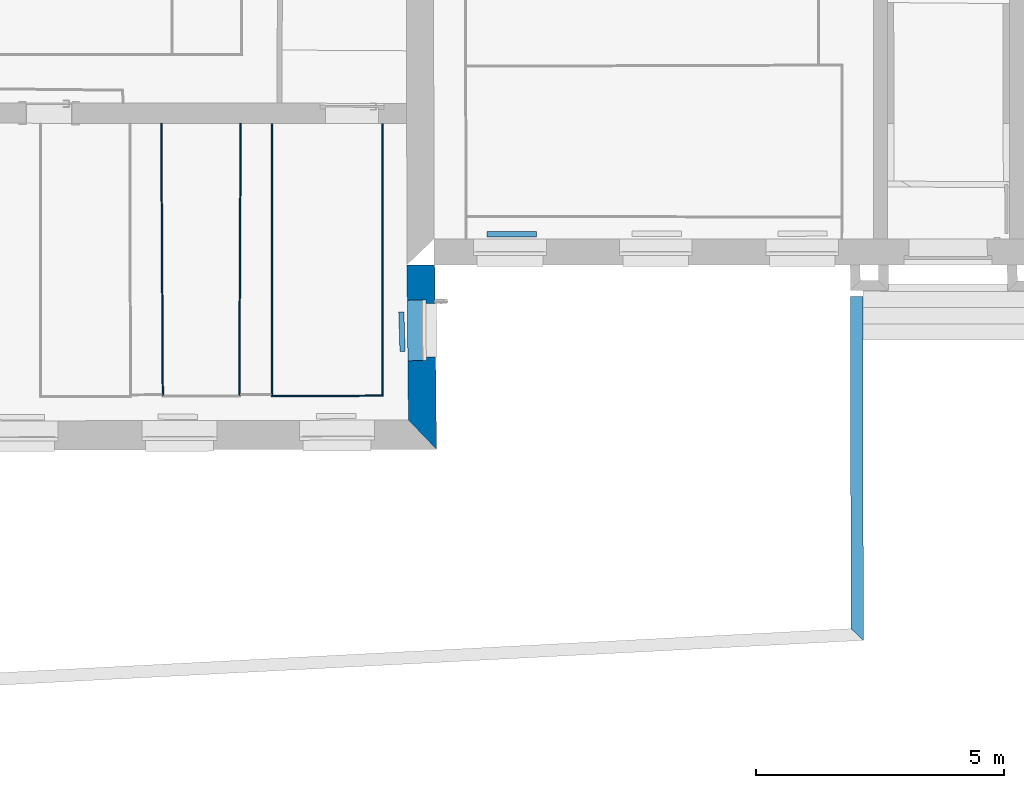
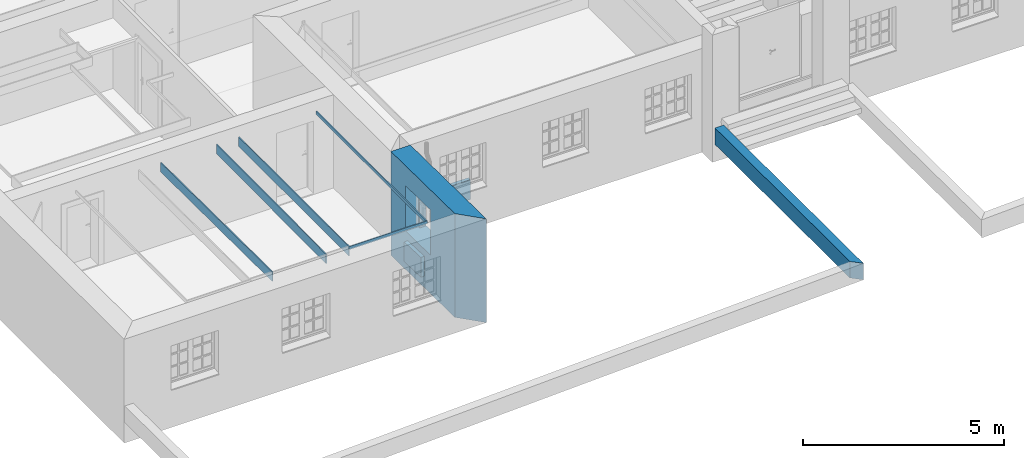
# One storey, part 19 of 196: 9 walls, 1 opening.
"""IFC2X3 building model written with IfcOpenShell, lengths in metres."""

from ifc_helpers import new_model, entity, si_unit, converted_unit, derived_unit, money_unit, direction, frame, origin_with_axes, origin_2d_with_axis, place, context, subcontext, project, spatial, polyline, rectangle, outline, extrude, material, layer, layer_set, layer_usage, type_object, element, save


model = new_model("IFC2X3")

# Units and contexts
model_context = context("Model", 3, precision=1e-05, world=origin_with_axes(), true_north=direction((0.0, 1.0)))
body_context = subcontext(model_context, "Body", "Model", "MODEL_VIEW")
ifc_project = project(units=[si_unit("LENGTHUNIT", "METRE"), si_unit("AREAUNIT", "SQUARE_METRE"), si_unit("VOLUMEUNIT", "CUBIC_METRE"), converted_unit("PLANEANGLEUNIT", "DEGREE", entity("IfcPlaneAngleMeasure", 0.0174532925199), si_unit("PLANEANGLEUNIT", "RADIAN"), dimensions=[0, 0, 0, 0, 0, 0, 0]), money_unit("EUR"), converted_unit("TIMEUNIT", "Year", entity("IfcTimeMeasure", 31556926.0), si_unit("TIMEUNIT", "SECOND"), dimensions=[0, 0, 1, 0, 0, 0, 0]), si_unit("MASSUNIT", "GRAM", prefix="KILO"), si_unit("THERMODYNAMICTEMPERATUREUNIT", "DEGREE_CELSIUS"), si_unit("LUMINOUSINTENSITYUNIT", "LUMEN"), si_unit("ENERGYUNIT", "JOULE", prefix="MEGA"), derived_unit("THERMALCONDUCTANCEUNIT", [(si_unit("POWERUNIT", "WATT"), 1), (si_unit("LENGTHUNIT", "METRE"), -1), (si_unit("THERMODYNAMICTEMPERATUREUNIT", "KELVIN"), -1)]), derived_unit("SPECIFICHEATCAPACITYUNIT", [(si_unit("ENERGYUNIT", "JOULE"), 1), (si_unit("MASSUNIT", "GRAM", prefix="KILO"), -1), (si_unit("THERMODYNAMICTEMPERATUREUNIT", "KELVIN"), -1)]), derived_unit("MASSDENSITYUNIT", [(si_unit("MASSUNIT", "GRAM", prefix="KILO"), 1), (si_unit("VOLUMEUNIT", "CUBIC_METRE"), -1)])], contexts=[model_context])

# Site, building, storey
site_placement = place(None, origin_with_axes())
site = spatial("IfcSite", under=ifc_project, at=site_placement, Name="Gelände", CompositionType="ELEMENT")
building_placement = place(site_placement, origin_with_axes())
building = spatial("IfcBuilding", under=site, at=building_placement, Name="Gebäude", CompositionType="ELEMENT")
storey_placement = place(building_placement, frame((0.0, 0.0, -3.0), z_axis=(0.0, 0.0, 1.0), x_axis=(1.0, 0.0, 0.0)))
storey = spatial("IfcBuildingStorey", under=building, at=storey_placement, Name="KELLERGESCHOSS", CompositionType="ELEMENT", Elevation=-3.0)

# Walls
ifc_material_1 = material(Name="05_ALLGEMEIN - TRAGENDE BAUTEILE")
ifc_layer_1 = layer(ifc_material_1, 0.250000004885, ventilated="UNKNOWN")
ifc_layer_set_1 = layer_set([ifc_layer_1], Name="05_ALLGEMEIN - TRAGENDE BAUTEILE 0.25")
ifc_layer_usage_1 = layer_usage(ifc_layer_set_1, "AXIS2", "NEGATIVE", 0.0)
wall_type_1 = type_object("IfcWallType", Name="05_ALLGEMEIN - TRAGENDE BAUTEILE 250", PredefinedType="ELEMENTEDWALL")
wall_1_placement = place(storey_placement, frame((-9.10849058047, 9.30214701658, 0.262), z_axis=(0.0, 0.0, 1.0), x_axis=(0.00189349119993, -0.999998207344, 0.0)))
element("IfcWallStandardCase", 1, at=wall_1_placement, inside=storey, type_object=wall_type_1, material=ifc_layer_usage_1, Name="Wand-041", ObjectType="ELEMENTEDWALL", context=body_context, shape_type="SweptSolid", body=[
    extrude(outline(polyline([(0.0, -0.25), (6.69434881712, -0.25), (6.9322007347, 0.0), (0.0, 0.0), (0.0, -0.25)])), origin_with_axes(), (0.0, 0.0, 1.0), 0.5),
])
ifc_material_2 = material(Name="43_Gipskarton")
ifc_layer_2 = layer(ifc_material_2, 0.03, ventilated="UNKNOWN")
ifc_layer_set_2 = layer_set([ifc_layer_2], Name="43_Gipskarton 0.03")
ifc_layer_usage_2 = layer_usage(ifc_layer_set_2, "AXIS2", "NEGATIVE", 0.0)
wall_type_2 = type_object("IfcWallType", Name="43_Gipskarton 30", PredefinedType="ELEMENTEDWALL")
wall_2_placement = place(storey_placement, frame((-20.9988620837, 7.31204342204, 2.37), z_axis=(0.0, 0.0, 1.0), x_axis=(0.99999756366, 0.00220741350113, 0.0)))
element("IfcWallStandardCase", 2, at=wall_2_placement, inside=storey, type_object=wall_type_2, material=ifc_layer_usage_2, Name="Wand-050", ObjectType="ELEMENTEDWALL", context=body_context, shape_type="SweptSolid", body=[
    extrude(outline(polyline([(-0.0300733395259, -0.03), (2.22702337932, -0.03), (2.19709066, 0.0), (0.0, 0.0), (-0.0300733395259, -0.03)])), origin_with_axes(), (0.0, 0.0, 1.0), 0.09),
])
ifc_layer_usage_3 = layer_usage(ifc_layer_set_2, "AXIS2", "NEGATIVE", 0.0)
wall_3_placement = place(storey_placement, frame((-18.8017767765, 7.31689330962, 2.37), z_axis=(0.0, 0.0, 1.0), x_axis=(3.77906442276e-05, 0.999999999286, 0.0)))
element("IfcWallStandardCase", 3, at=wall_3_placement, inside=storey, type_object=wall_type_2, material=ifc_layer_usage_3, Name="Wand-051", ObjectType="ELEMENTEDWALL", context=body_context, shape_type="SweptSolid", body=[
    extrude(outline(polyline([(-0.0299327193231, -0.03), (5.46817233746, -0.03), (5.46817233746, 0.0), (0.0, 0.0), (-0.0299327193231, -0.03)])), origin_with_axes(), (0.0, 0.0, 1.0), 0.09),
])
ifc_layer_usage_4 = layer_usage(ifc_layer_set_2, "AXIS2", "NEGATIVE", 0.0)
wall_4_placement = place(storey_placement, frame((-23.2313996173, 12.7901968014, 2.18), z_axis=(0.0, 0.0, 1.0), x_axis=(0.0054770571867, -0.99998500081, 0.0)))
element("IfcWallStandardCase", 4, at=wall_4_placement, inside=storey, type_object=wall_type_2, material=ifc_layer_usage_4, Name="Wand-053", ObjectType="ELEMENTEDWALL", context=body_context, shape_type="SweptSolid", body=[
    extrude(outline(polyline([(0.0, -0.03), (5.51299954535, -0.03), (5.48309747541, 0.0), (0.0, 0.0), (0.0, -0.03)])), origin_with_axes(), (0.0, 0.0, 1.0), 0.28),
])
ifc_layer_usage_5 = layer_usage(ifc_layer_set_2, "AXIS2", "NEGATIVE", 0.03)
wall_5_placement = place(storey_placement, frame((-21.6632398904, 12.7883803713, 2.18), z_axis=(0.0, 0.0, 1.0), x_axis=(-0.00488529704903, -0.999988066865, 0.0)))
element("IfcWallStandardCase", 5, at=wall_5_placement, inside=storey, type_object=wall_type_2, material=ifc_layer_usage_5, Name="Wand-054", ObjectType="ELEMENTEDWALL", context=body_context, shape_type="SweptSolid", body=[
    extrude(outline(polyline([(0.0, 0.0), (5.47792795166, 0.0), (5.50771592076, 0.03), (0.0, 0.03), (0.0, 0.0)])), origin_with_axes(), (0.0, 0.0, 1.0), 0.28),
])
ifc_layer_usage_6 = layer_usage(ifc_layer_set_2, "AXIS2", "NEGATIVE", 0.03)
wall_6_placement = place(storey_placement, frame((-20.9988620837, 7.31204342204, 2.18), z_axis=(0.0, 0.0, 1.0), x_axis=(0.000234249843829, 0.999999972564, 0.0)))
element("IfcWallStandardCase", 6, at=wall_6_placement, inside=storey, type_object=wall_type_2, material=ifc_layer_usage_6, Name="Wand-055", ObjectType="ELEMENTEDWALL", context=body_context, shape_type="SweptSolid", body=[
    extrude(outline(polyline([(0.0, 0.0), (5.47556605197, 0.0), (5.47556605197, 0.03), (-0.0300733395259, 0.03), (0.0, 0.0)])), origin_with_axes(), (0.0, 0.0, 1.0), 0.28),
])
ifc_material_3 = material(Name="01_ALLGEMEIN - BAUTEIL")
ifc_layer_3 = layer(ifc_material_3, 0.105, ventilated="UNKNOWN")
ifc_layer_set_3 = layer_set([ifc_layer_3], Name="01_ALLGEMEIN - BAUTEIL 0.105")
ifc_layer_usage_7 = layer_usage(ifc_layer_set_3, "AXIS2", "NEGATIVE", 0.105)
wall_type_3 = type_object("IfcWallType", Name="01_ALLGEMEIN - BAUTEIL 105", PredefinedType="ELEMENTEDWALL")
wall_7_placement = place(storey_placement, frame((-15.6821866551, 10.6066354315, 0.0805299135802), z_axis=(0.0, 0.0, 1.0), x_axis=(-0.999996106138, 0.00279064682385, 0.0)))
element("IfcWallStandardCase", 7, at=wall_7_placement, inside=storey, type_object=wall_type_3, material=ifc_layer_usage_7, Name="Wand-038", ObjectType="ELEMENTEDWALL", context=body_context, shape_type="SweptSolid", body=[
    extrude(outline(polyline([(0.0, 0.0), (0.997988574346, 0.0), (0.997988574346, 0.105), (0.0, 0.105), (0.0, 0.0)])), origin_with_axes(), (0.0, 0.0, 1.0), 0.597873),
])
ifc_layer_usage_8 = layer_usage(ifc_layer_set_3, "AXIS2", "NEGATIVE", 0.0)
wall_8_placement = place(storey_placement, frame((-18.4372232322, 8.19434926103, 0.0805299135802), z_axis=(0.0, 0.0, 1.0), x_axis=(-0.0303967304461, 0.999537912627, 0.0)))
element("IfcWallStandardCase", 8, at=wall_8_placement, inside=storey, type_object=wall_type_3, material=ifc_layer_usage_8, Name="Wand-039", ObjectType="ELEMENTEDWALL", context=body_context, shape_type="SweptSolid", body=[
    extrude(outline(polyline([(0.0, -0.105), (0.793508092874, -0.105), (0.793508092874, 0.0), (0.0, 0.0), (0.0, -0.105)])), origin_with_axes(), (0.0, 0.0, 1.0), 0.597873),
])

# Wall, opening
ifc_layer_4 = layer(ifc_material_1, 0.56, ventilated="UNKNOWN")
ifc_layer_set_4 = layer_set([ifc_layer_4], Name="05_ALLGEMEIN - TRAGENDE BAUTEILE 0.56")
ifc_layer_usage_9 = layer_usage(ifc_layer_set_4, "AXIS2", "NEGATIVE", 0.56)
wall_type_4 = type_object("IfcWallType", Name="05_ALLGEMEIN - TRAGENDE BAUTEILE 560", PredefinedType="ELEMENTEDWALL")
wall_9_placement = place(storey_placement, frame((-17.6997063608, 6.22219965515, -0.36), z_axis=(0.0, 0.0, 1.0), x_axis=(-0.00971979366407, 0.99995276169, 0.0)))
wall_9 = element("IfcWallStandardCase", 9, at=wall_9_placement, inside=storey, type_object=wall_type_4, material=ifc_layer_usage_9, Name="Wand-029", ObjectType="ELEMENTEDWALL", context=body_context, shape_type="SweptSolid", body=[
    extrude(outline(polyline([(0.0, 0.0), (3.71695293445, 0.0), (3.72235412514, 0.56), (0.59426893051, 0.56), (0.0, 0.0)])), origin_with_axes(), (0.0, 0.0, 1.0), 3.15),
])
opening_placement = place(wall_9_placement, frame((2.3988384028, 0.0, 1.16872266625), z_axis=(0.0, 0.0, 1.0), x_axis=(1.0, 0.0, 0.0)))
element("IfcOpeningElement", 10, at=opening_placement, cuts=wall_9, Name="Fenster-014", context=body_context, shape_type="SweptSolid", body=[
    extrude(rectangle(XDim=1.22, YDim=1.37626033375, at=origin_2d_with_axis()), frame((0.0, 0.187384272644, 0.688130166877), z_axis=(0.0, -1.0, 0.0), x_axis=(1.0, 0.0, 0.0)), (0.0, 0.0, -1.0), 0.932615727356),
    extrude(rectangle(XDim=1.08, YDim=1.30626033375, at=origin_2d_with_axis()), frame((0.0, 0.187384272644, 0.653130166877), z_axis=(0.0, 1.0, 0.0), x_axis=(1.0, 0.0, 0.0)), (0.0, 0.0, -1.0), 0.747384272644),
])

save(model, "model.ifc")
